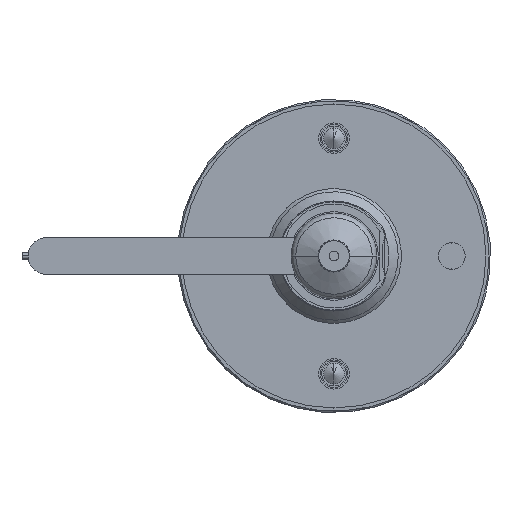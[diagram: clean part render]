
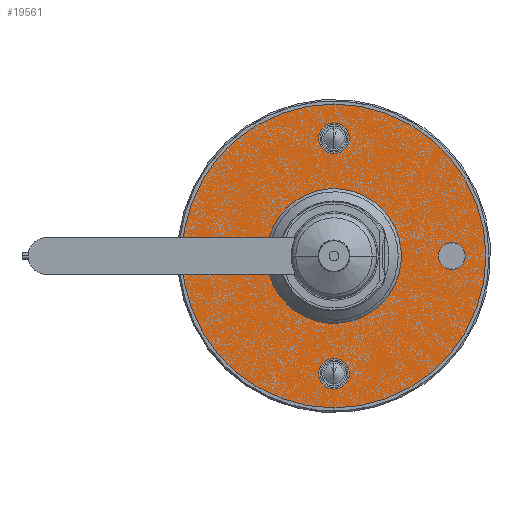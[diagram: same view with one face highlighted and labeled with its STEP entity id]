
A CAD part, front view. The second image highlights one B-rep face of the part: STEP entity #19561.
In plain terms, the highlighted planar face has unit normal (0, -1, 0) as drawn and (0, 0, -1) by its records, which use the part's own axes.
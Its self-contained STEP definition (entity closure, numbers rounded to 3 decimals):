
#3 = VERTEX_POINT ( 'NONE', #9982 ) ;
#66 = DIRECTION ( 'NONE',  ( -1., 0., 0. ) ) ;
#498 = CARTESIAN_POINT ( 'NONE',  ( -43.5, 0., 0. ) ) ;
#656 = CIRCLE ( 'NONE', #20455, 4.4 ) ;
#1079 = EDGE_LOOP ( 'NONE', ( #19375, #3363 ) ) ;
#1284 = DIRECTION ( 'NONE',  ( 0., 0., 1. ) ) ;
#1321 = DIRECTION ( 'NONE',  ( -1., 0., 0. ) ) ;
#1882 = ORIENTED_EDGE ( 'NONE', *, *, #9103, .T. ) ;
#2205 = CARTESIAN_POINT ( 'NONE',  ( 0., 0., 0. ) ) ;
#2372 = CARTESIAN_POINT ( 'NONE',  ( 0., 0., 0. ) ) ;
#2441 = DIRECTION ( 'NONE',  ( 0., 0., -1. ) ) ;
#3363 = ORIENTED_EDGE ( 'NONE', *, *, #11354, .T. ) ;
#3662 = EDGE_LOOP ( 'NONE', ( #20618, #5686 ) ) ;
#3685 = CARTESIAN_POINT ( 'NONE',  ( 4.4, 38.5, 0. ) ) ;
#3768 = DIRECTION ( 'NONE',  ( 0., 0., 1. ) ) ;
#4019 = VERTEX_POINT ( 'NONE', #13484 ) ;
#4058 = CARTESIAN_POINT ( 'NONE',  ( 0., 38.5, 0. ) ) ;
#4096 = VERTEX_POINT ( 'NONE', #13334 ) ;
#4261 = AXIS2_PLACEMENT_3D ( 'NONE', #21504, #19209, #9871 ) ;
#4456 = ORIENTED_EDGE ( 'NONE', *, *, #24197, .T. ) ;
#4630 = CIRCLE ( 'NONE', #6476, 5. ) ;
#5043 = CIRCLE ( 'NONE', #5941, 5. ) ;
#5082 = VERTEX_POINT ( 'NONE', #22526 ) ;
#5511 = CARTESIAN_POINT ( 'NONE',  ( 0., -38.5, 0. ) ) ;
#5669 = EDGE_LOOP ( 'NONE', ( #21788, #19909 ) ) ;
#5686 = ORIENTED_EDGE ( 'NONE', *, *, #21549, .T. ) ;
#5819 = ORIENTED_EDGE ( 'NONE', *, *, #26377, .T. ) ;
#5888 = CARTESIAN_POINT ( 'NONE',  ( 38.5, 0., 0. ) ) ;
#5941 = AXIS2_PLACEMENT_3D ( 'NONE', #5888, #1284, #10505 ) ;
#6476 = AXIS2_PLACEMENT_3D ( 'NONE', #18432, #22473, #11524 ) ;
#6605 = DIRECTION ( 'NONE',  ( 0., 0., 1. ) ) ;
#6692 = VERTEX_POINT ( 'NONE', #3685 ) ;
#6759 = FACE_BOUND ( 'NONE', #1079, .T. ) ;
#7510 = CIRCLE ( 'NONE', #23606, 49.675 ) ;
#7579 = EDGE_LOOP ( 'NONE', ( #7611, #11923 ) ) ;
#7611 = ORIENTED_EDGE ( 'NONE', *, *, #18577, .T. ) ;
#7836 = EDGE_CURVE ( 'NONE', #23418, #18065, #18437, .T. ) ;
#7902 = DIRECTION ( 'NONE',  ( -1., 0., 0. ) ) ;
#8698 = DIRECTION ( 'NONE',  ( 0., 0., -1. ) ) ;
#8759 = DIRECTION ( 'NONE',  ( -1., 0., 0. ) ) ;
#8871 = AXIS2_PLACEMENT_3D ( 'NONE', #22032, #2441, #26782 ) ;
#8938 = FACE_BOUND ( 'NONE', #5669, .T. ) ;
#9103 = EDGE_CURVE ( 'NONE', #4019, #6692, #25360, .T. ) ;
#9871 = DIRECTION ( 'NONE',  ( -1., 0., 0. ) ) ;
#9982 = CARTESIAN_POINT ( 'NONE',  ( -49.675, 0., 0. ) ) ;
#10167 = CARTESIAN_POINT ( 'NONE',  ( 0., 38.5, 0. ) ) ;
#10252 = AXIS2_PLACEMENT_3D ( 'NONE', #14244, #12513, #7902 ) ;
#10403 = CARTESIAN_POINT ( 'NONE',  ( -33.5, 0., 0. ) ) ;
#10434 = DIRECTION ( 'NONE',  ( -1., 0., 0. ) ) ;
#10505 = DIRECTION ( 'NONE',  ( -1., 0., 0. ) ) ;
#10623 = DIRECTION ( 'NONE',  ( 1., 0., 0. ) ) ;
#11048 = VERTEX_POINT ( 'NONE', #22930 ) ;
#11354 = EDGE_CURVE ( 'NONE', #26134, #21780, #26349, .T. ) ;
#11524 = DIRECTION ( 'NONE',  ( -1., 0., 0. ) ) ;
#11923 = ORIENTED_EDGE ( 'NONE', *, *, #28243, .T. ) ;
#12513 = DIRECTION ( 'NONE',  ( 0., 0., 1. ) ) ;
#12570 = DIRECTION ( 'NONE',  ( 1., 0., 0. ) ) ;
#12612 = AXIS2_PLACEMENT_3D ( 'NONE', #15000, #3768, #12570 ) ;
#12796 = EDGE_CURVE ( 'NONE', #21780, #26134, #4630, .T. ) ;
#13243 = PLANE ( 'NONE',  #8871 ) ;
#13313 = CIRCLE ( 'NONE', #14708, 49.675 ) ;
#13334 = CARTESIAN_POINT ( 'NONE',  ( 16.5, 0., 0. ) ) ;
#13484 = CARTESIAN_POINT ( 'NONE',  ( -4.4, 38.5, 0. ) ) ;
#14244 = CARTESIAN_POINT ( 'NONE',  ( 38.5, 0., 0. ) ) ;
#14708 = AXIS2_PLACEMENT_3D ( 'NONE', #2205, #8698, #28426 ) ;
#15000 = CARTESIAN_POINT ( 'NONE',  ( 0., 0., 0. ) ) ;
#15227 = AXIS2_PLACEMENT_3D ( 'NONE', #10167, #18953, #27727 ) ;
#15364 = CIRCLE ( 'NONE', #12612, 16.5 ) ;
#15410 = FACE_OUTER_BOUND ( 'NONE', #3662, .T. ) ;
#15684 = AXIS2_PLACEMENT_3D ( 'NONE', #28044, #28473, #10623 ) ;
#15869 = EDGE_LOOP ( 'NONE', ( #18442, #5819 ) ) ;
#16086 = EDGE_LOOP ( 'NONE', ( #1882, #4456 ) ) ;
#17038 = AXIS2_PLACEMENT_3D ( 'NONE', #5511, #23093, #1321 ) ;
#17195 = DIRECTION ( 'NONE',  ( 0., 0., 1. ) ) ;
#17417 = CIRCLE ( 'NONE', #20184, 4.4 ) ;
#17433 = CARTESIAN_POINT ( 'NONE',  ( -4.4, -38.5, 0. ) ) ;
#17542 = CARTESIAN_POINT ( 'NONE',  ( -16.5, 0., 0. ) ) ;
#17554 = EDGE_CURVE ( 'NONE', #18065, #23418, #656, .T. ) ;
#17966 = CARTESIAN_POINT ( 'NONE',  ( 0., -38.5, 0. ) ) ;
#18065 = VERTEX_POINT ( 'NONE', #20353 ) ;
#18432 = CARTESIAN_POINT ( 'NONE',  ( -38.5, 0., 0. ) ) ;
#18437 = CIRCLE ( 'NONE', #17038, 4.4 ) ;
#18442 = ORIENTED_EDGE ( 'NONE', *, *, #22906, .T. ) ;
#18577 = EDGE_CURVE ( 'NONE', #4096, #20878, #15364, .T. ) ;
#18953 = DIRECTION ( 'NONE',  ( 0., 0., 1. ) ) ;
#19209 = DIRECTION ( 'NONE',  ( 0., 0., 1. ) ) ;
#19375 = ORIENTED_EDGE ( 'NONE', *, *, #12796, .T. ) ;
#19561 = ADVANCED_FACE ( 'NONE', ( #15410, #8938, #19889, #22326, #6759, #20162 ), #13243, .T. ) ;
#19889 = FACE_BOUND ( 'NONE', #16086, .T. ) ;
#19909 = ORIENTED_EDGE ( 'NONE', *, *, #17554, .T. ) ;
#20162 = FACE_BOUND ( 'NONE', #7579, .T. ) ;
#20184 = AXIS2_PLACEMENT_3D ( 'NONE', #4058, #17195, #10434 ) ;
#20353 = CARTESIAN_POINT ( 'NONE',  ( 4.4, -38.5, 0. ) ) ;
#20455 = AXIS2_PLACEMENT_3D ( 'NONE', #17966, #6605, #8759 ) ;
#20618 = ORIENTED_EDGE ( 'NONE', *, *, #26059, .T. ) ;
#20878 = VERTEX_POINT ( 'NONE', #17542 ) ;
#21504 = CARTESIAN_POINT ( 'NONE',  ( -38.5, 0., 0. ) ) ;
#21549 = EDGE_CURVE ( 'NONE', #3, #11048, #7510, .T. ) ;
#21780 = VERTEX_POINT ( 'NONE', #498 ) ;
#21788 = ORIENTED_EDGE ( 'NONE', *, *, #7836, .T. ) ;
#22032 = CARTESIAN_POINT ( 'NONE',  ( 16.5, 0., 0. ) ) ;
#22326 = FACE_BOUND ( 'NONE', #15869, .T. ) ;
#22439 = CARTESIAN_POINT ( 'NONE',  ( 33.5, 0., 0. ) ) ;
#22473 = DIRECTION ( 'NONE',  ( 0., 0., 1. ) ) ;
#22526 = CARTESIAN_POINT ( 'NONE',  ( 43.5, 0., 0. ) ) ;
#22906 = EDGE_CURVE ( 'NONE', #23070, #5082, #26654, .T. ) ;
#22930 = CARTESIAN_POINT ( 'NONE',  ( 49.675, 0., 0. ) ) ;
#23070 = VERTEX_POINT ( 'NONE', #22439 ) ;
#23093 = DIRECTION ( 'NONE',  ( 0., 0., 1. ) ) ;
#23418 = VERTEX_POINT ( 'NONE', #17433 ) ;
#23606 = AXIS2_PLACEMENT_3D ( 'NONE', #2372, #24146, #66 ) ;
#24146 = DIRECTION ( 'NONE',  ( 0., 0., -1. ) ) ;
#24197 = EDGE_CURVE ( 'NONE', #6692, #4019, #17417, .T. ) ;
#25360 = CIRCLE ( 'NONE', #15227, 4.4 ) ;
#26059 = EDGE_CURVE ( 'NONE', #11048, #3, #13313, .T. ) ;
#26134 = VERTEX_POINT ( 'NONE', #10403 ) ;
#26349 = CIRCLE ( 'NONE', #4261, 5. ) ;
#26377 = EDGE_CURVE ( 'NONE', #5082, #23070, #5043, .T. ) ;
#26654 = CIRCLE ( 'NONE', #10252, 5. ) ;
#26782 = DIRECTION ( 'NONE',  ( -1., 0., 0. ) ) ;
#27727 = DIRECTION ( 'NONE',  ( -1., 0., 0. ) ) ;
#28044 = CARTESIAN_POINT ( 'NONE',  ( 0., 0., 0. ) ) ;
#28083 = CIRCLE ( 'NONE', #15684, 16.5 ) ;
#28243 = EDGE_CURVE ( 'NONE', #20878, #4096, #28083, .T. ) ;
#28426 = DIRECTION ( 'NONE',  ( -1., 0., 0. ) ) ;
#28473 = DIRECTION ( 'NONE',  ( 0., 0., 1. ) ) ;
